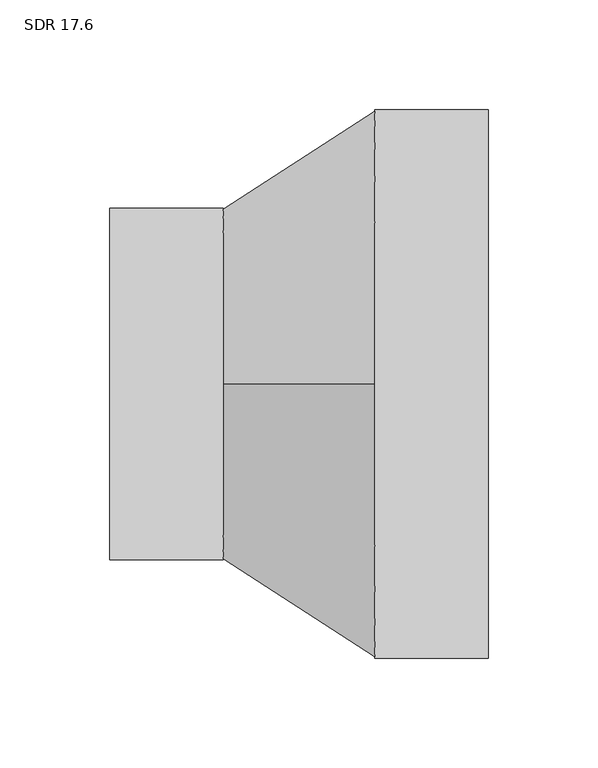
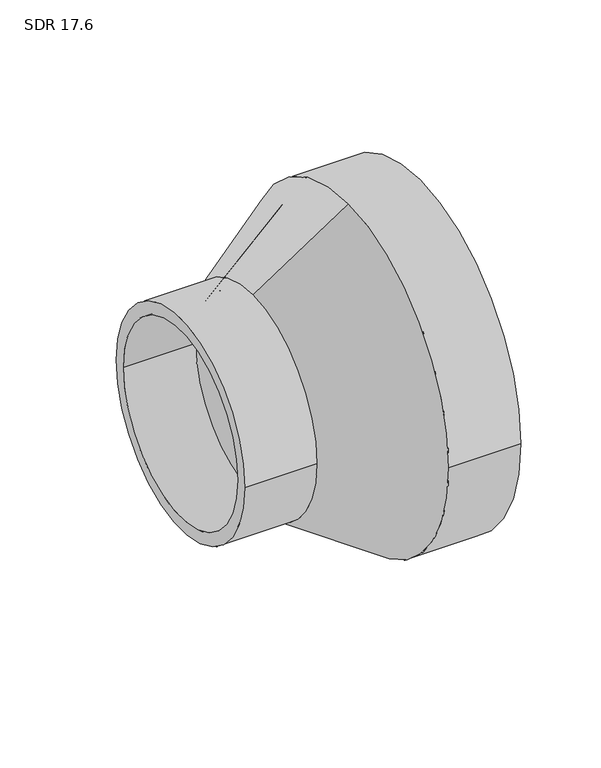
"""IFC4 building model written with IfcOpenShell, lengths in millimetres: pipe fitting geometry, Aquatherm - Reducing Coupling Combined - METRIC : SDR 17.6."""

from ifc_helpers import new_model, si_unit, frame, origin, place, context, project, spatial, polyline, circle_curve, source, transform, mapped, element, save
from ifc_brep_helpers import plane_surface, cylinder_surface, revolved_surface, advanced_brep


def sdr_17_6_dbf57941(model_context):
    return source(origin(), model_context, "Body", "AdvancedBrep", [
        advanced_brep(
        [(-86.233, -80.01, 0.0), (-86.233, 80.01, 0.0), (-86.233, -70.9179545, 0.0), (-86.233, 70.9179545, 0.0), (-34.4932, 70.9179545, 0.0), (-34.4932, 0.0, 70.9179545), (-34.4932, -70.9179545, 0.0), (-34.4932, 0.0, -70.9179545), (-34.4932, 80.01, 0.0), (-34.4932, 0.0, -80.01), (-34.4932, -80.01, 0.0), (-34.4932, 0.0, 80.01), (86.233, -124.968, 0.0), (86.233, 124.968, 0.0), (86.233, -110.7670909, 0.0), (86.233, 110.7670909, 0.0), (34.4932, -124.968, 0.0), (34.4932, 0.0, -124.968), (34.4932, 124.968, 0.0), (34.4932, 0.0, 124.968), (34.4932, -110.7670909, 0.0), (34.4932, 0.0, 110.7670909), (34.4932, 110.7670909, 0.0), (34.4932, 0.0, -110.7670909)],
        [
            (0, 1, circle_curve(frame((-86.233, 0.0, 0.0), z_axis=(-1.0, 0.0, 0.0), x_axis=(0.0, 1.0, 0.0)), 80.01)),
            (1, 0, circle_curve(frame((-86.233, 0.0, 0.0), z_axis=(-1.0, 0.0, 0.0), x_axis=(0.0, 1.0, 0.0)), 80.01)),
            (2, 3, circle_curve(frame((-86.233, 0.0, 0.0), z_axis=(1.0, 0.0, 0.0), x_axis=(0.0, 1.0, 0.0)), 70.9179545)),
            (3, 2, circle_curve(frame((-86.233, 0.0, 0.0), z_axis=(1.0, 0.0, 0.0), x_axis=(0.0, 1.0, 0.0)), 70.9179545)),
            (3, 4),
            (4, 5, circle_curve(frame((-34.4932, 0.0, 0.0), z_axis=(1.0, 0.0, 0.0), x_axis=(0.0, 1.0, 0.0)), 70.9179545)),
            (5, 6, circle_curve(frame((-34.4932, 0.0, 0.0), z_axis=(1.0, 0.0, 0.0), x_axis=(0.0, 1.0, 0.0)), 70.9179545)),
            (6, 2),
            (6, 7, circle_curve(frame((-34.4932, 0.0, 0.0), z_axis=(1.0, 0.0, 0.0), x_axis=(0.0, 1.0, 0.0)), 70.9179545)),
            (7, 4, circle_curve(frame((-34.4932, 0.0, 0.0), z_axis=(1.0, 0.0, 0.0), x_axis=(0.0, 1.0, 0.0)), 70.9179545)),
            (1, 8),
            (8, 9, circle_curve(frame((-34.4932, 0.0, 0.0), z_axis=(-1.0, 0.0, 0.0), x_axis=(0.0, 1.0, 0.0)), 80.01)),
            (9, 10, circle_curve(frame((-34.4932, 0.0, 0.0), z_axis=(-1.0, 0.0, 0.0), x_axis=(0.0, 1.0, 0.0)), 80.01)),
            (10, 0),
            (10, 11, circle_curve(frame((-34.4932, 0.0, 0.0), z_axis=(-1.0, 0.0, 0.0), x_axis=(0.0, 1.0, 0.0)), 80.01)),
            (11, 8, circle_curve(frame((-34.4932, 0.0, 0.0), z_axis=(-1.0, 0.0, 0.0), x_axis=(0.0, 1.0, 0.0)), 80.01)),
            (12, 13, circle_curve(frame((86.233, 0.0, 0.0), z_axis=(1.0, 0.0, 0.0), x_axis=(0.0, 1.0, 0.0)), 124.968)),
            (13, 12, circle_curve(frame((86.233, 0.0, 0.0), z_axis=(1.0, 0.0, 0.0), x_axis=(0.0, 1.0, 0.0)), 124.968)),
            (14, 15, circle_curve(frame((86.233, 0.0, 0.0), z_axis=(-1.0, 0.0, 0.0), x_axis=(0.0, 1.0, 0.0)), 110.7670909)),
            (15, 14, circle_curve(frame((86.233, 0.0, 0.0), z_axis=(-1.0, 0.0, 0.0), x_axis=(0.0, 1.0, 0.0)), 110.7670909)),
            (12, 16),
            (16, 17, circle_curve(frame((34.4932, 0.0, 0.0), z_axis=(1.0, 0.0, 0.0), x_axis=(0.0, 1.0, 0.0)), 124.968)),
            (17, 18, circle_curve(frame((34.4932, 0.0, 0.0), z_axis=(1.0, 0.0, 0.0), x_axis=(0.0, 1.0, 0.0)), 124.968)),
            (18, 13),
            (18, 19, circle_curve(frame((34.4932, 0.0, 0.0), z_axis=(1.0, 0.0, 0.0), x_axis=(0.0, 1.0, 0.0)), 124.968)),
            (19, 16, circle_curve(frame((34.4932, 0.0, 0.0), z_axis=(1.0, 0.0, 0.0), x_axis=(0.0, 1.0, 0.0)), 124.968)),
            (14, 20),
            (20, 21, circle_curve(frame((34.4932, 0.0, 0.0), z_axis=(-1.0, 0.0, 0.0), x_axis=(0.0, 1.0, 0.0)), 110.7670909)),
            (21, 22, circle_curve(frame((34.4932, 0.0, 0.0), z_axis=(-1.0, 0.0, 0.0), x_axis=(0.0, 1.0, 0.0)), 110.7670909)),
            (22, 15),
            (22, 23, circle_curve(frame((34.4932, 0.0, 0.0), z_axis=(-1.0, 0.0, 0.0), x_axis=(0.0, 1.0, 0.0)), 110.7670909)),
            (23, 20, circle_curve(frame((34.4932, 0.0, 0.0), z_axis=(-1.0, 0.0, 0.0), x_axis=(0.0, 1.0, 0.0)), 110.7670909)),
            (11, 19),
            (17, 9),
            (21, 5),
            (7, 23),
        ],
        [
            plane_surface(frame((-86.233, 70.9179545, 0.0), z_axis=(-1.0, 0.0, 0.0), x_axis=(0.0, 0.0, 1.0))),
            revolved_surface(polyline([(-86.233, 70.9179545, 0.0), (-34.4932, 70.9179545, 0.0)]), (-86.233, 0.0, 0.0), (-1.0, 0.0, 0.0)),
            cylinder_surface(frame((0.0, 0.0, 0.0), z_axis=(1.0, 0.0, 0.0), x_axis=(0.0, 1.0, 0.0)), 80.01),
            plane_surface(frame((86.233, 124.968, 0.0), z_axis=(1.0, 0.0, 0.0), x_axis=(0.0, 0.0, 1.0))),
            cylinder_surface(frame((34.4932, 0.0, 0.0), z_axis=(1.0, 0.0, 0.0), x_axis=(0.0, 1.0, 0.0)), 124.968),
            revolved_surface(polyline([(34.4932, 110.7670909, 0.0), (86.233, 110.7670909, 0.0)]), (0.0, 0.0, 0.0), (-1.0, 0.0, 0.0)),
            revolved_surface(polyline([(34.4932, 0.0, 124.968), (-34.4932, 0.0, 80.01)]), (-661.4925384, 0.0, 0.0), (-1.0, 0.0, 0.0)),
            revolved_surface(polyline([(-34.4932, 0.0, 70.9179545), (34.4932, 0.0, 110.7670909)]), (-661.4925384, 0.0, 0.0), (-1.0, 0.0, 0.0)),
        ],
        [
            (0, [[1, 2], [3, 4]]),
            (1, [[-4, 5, 6, 7, 8]]),
            (1, [[-3, -8, 9, 10, -5]]),
            (2, [[-2, 11, 12, 13, 14]]),
            (2, [[-1, -14, 15, 16, -11]]),
            (3, [[17, 18], [19, 20]]),
            (4, [[-17, 21, 22, 23, 24]]),
            (4, [[-18, -24, 25, 26, -21]]),
            (5, [[-19, 27, 28, 29, 30]]),
            (5, [[-20, -30, 31, 32, -27]]),
            (6, [[33, -25, -23, 34, -12, -16]]),
            (6, [[-33, -15, -13, -34, -22, -26]]),
            (7, [[35, -6, -10, 36, -31, -29]]),
            (7, [[-35, -28, -32, -36, -9, -7]]),
        ],
    ),
    ])


if __name__ == "__main__":
    model = new_model("IFC4")
    model_context = context("Model", 3, world=origin())
    ifc_project = project(units=[si_unit("LENGTHUNIT", "METRE", prefix="MILLI")], contexts=[model_context])
    site = spatial("IfcSite", under=ifc_project)
    building = spatial("IfcBuilding", under=site)
    placement = place(None, origin())
    sdr_17_6_shape = sdr_17_6_dbf57941(model_context)
    element("IfcPipeFitting", 1, ObjectType="Aquatherm - Reducing Coupling Combined - METRIC : SDR 17.6", at=placement, inside=building, context=model_context, shape_type="MappedRepresentation", body=[
        mapped(sdr_17_6_shape, transform((0.0, 0.0, 0.0), x_axis=(1.0, 0.0, 0.0), y_axis=(0.0, 1.0, 0.0), z_axis=(0.0, 0.0, 1.0))),
    ])
    save(model, "model.ifc")
